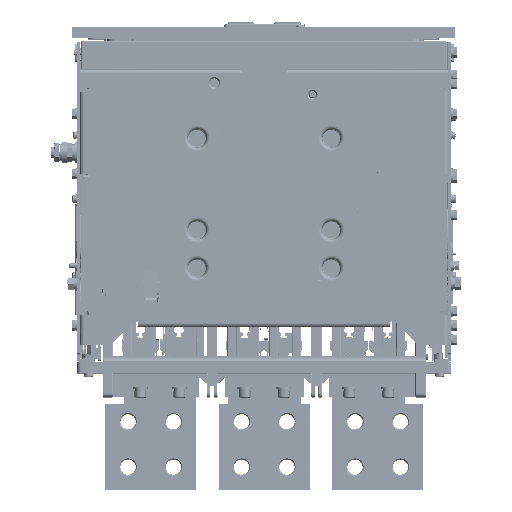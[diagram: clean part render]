
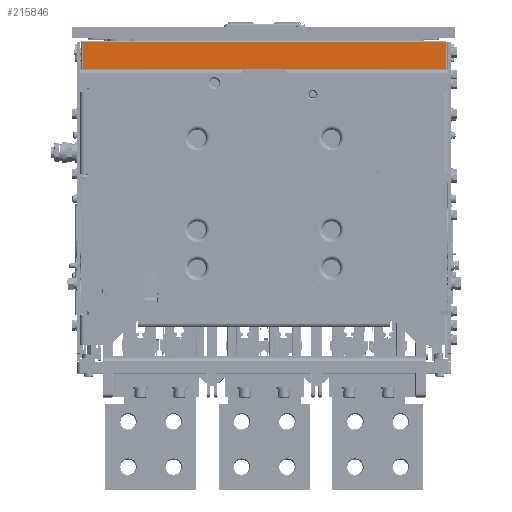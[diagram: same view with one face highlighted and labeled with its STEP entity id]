
A CAD part, top view. The second image highlights one B-rep face of the part: STEP entity #215846.
In plain terms, the highlighted planar face has unit normal (0, 0, 1) as drawn and (0, -1, 0) by its records, which use the part's own axes.
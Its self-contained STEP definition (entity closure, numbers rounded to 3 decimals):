
#1547 = VERTEX_POINT ( 'NONE', #239881 ) ;
#21737 = EDGE_LOOP ( 'NONE', ( #365486, #358300, #59287, #261744 ) ) ;
#31199 = EDGE_CURVE ( 'NONE', #1547, #227550, #259675, .T. ) ;
#59287 = ORIENTED_EDGE ( 'NONE', *, *, #106549, .F. ) ;
#61378 = PLANE ( 'NONE',  #119007 ) ;
#89750 = DIRECTION ( 'NONE',  ( 0., 0., 1. ) ) ;
#106549 = EDGE_CURVE ( 'NONE', #250939, #142606, #290831, .T. ) ;
#111981 = CARTESIAN_POINT ( 'NONE',  ( 375.001, -243.998, 493.5 ) ) ;
#116140 = DIRECTION ( 'NONE',  ( 0., 0., 1. ) ) ;
#119007 = AXIS2_PLACEMENT_3D ( 'NONE', #181493, #329251, #179571 ) ;
#121254 = LINE ( 'NONE', #357621, #161066 ) ;
#142606 = VERTEX_POINT ( 'NONE', #382867 ) ;
#161066 = VECTOR ( 'NONE', #89750, 1000. ) ;
#168748 = DIRECTION ( 'NONE',  ( -1., 0., 0. ) ) ;
#179571 = DIRECTION ( 'NONE',  ( 0., 0., -1. ) ) ;
#181493 = CARTESIAN_POINT ( 'NONE',  ( 175.001, -244.008, 478.25 ) ) ;
#205398 = EDGE_CURVE ( 'NONE', #250939, #1547, #293396, .T. ) ;
#209076 = FACE_OUTER_BOUND ( 'NONE', #21737, .T. ) ;
#215846 = ADVANCED_FACE ( 'NONE', ( #209076 ), #61378, .F. ) ;
#227026 = EDGE_CURVE ( 'NONE', #142606, #227550, #121254, .T. ) ;
#227550 = VERTEX_POINT ( 'NONE', #338301 ) ;
#228984 = CARTESIAN_POINT ( 'NONE',  ( 375.001, -243.998, 463. ) ) ;
#232078 = DIRECTION ( 'NONE',  ( -1., 0., 0. ) ) ;
#239881 = CARTESIAN_POINT ( 'NONE',  ( 375.001, -243.998, 493.5 ) ) ;
#250939 = VERTEX_POINT ( 'NONE', #228984 ) ;
#259675 = LINE ( 'NONE', #111981, #299340 ) ;
#261744 = ORIENTED_EDGE ( 'NONE', *, *, #205398, .T. ) ;
#263824 = CARTESIAN_POINT ( 'NONE',  ( 375.001, -243.998, 463. ) ) ;
#268085 = VECTOR ( 'NONE', #116140, 1000. ) ;
#288904 = CARTESIAN_POINT ( 'NONE',  ( 375.001, -243.998, 463. ) ) ;
#290831 = LINE ( 'NONE', #288904, #386026 ) ;
#293396 = LINE ( 'NONE', #263824, #268085 ) ;
#299340 = VECTOR ( 'NONE', #232078, 1000. ) ;
#329251 = DIRECTION ( 'NONE',  ( 0., 1., 0. ) ) ;
#338301 = CARTESIAN_POINT ( 'NONE',  ( -24.999, -244.018, 493.5 ) ) ;
#357621 = CARTESIAN_POINT ( 'NONE',  ( -24.999, -244.018, 463. ) ) ;
#358300 = ORIENTED_EDGE ( 'NONE', *, *, #227026, .F. ) ;
#365486 = ORIENTED_EDGE ( 'NONE', *, *, #31199, .T. ) ;
#382867 = CARTESIAN_POINT ( 'NONE',  ( -24.999, -244.018, 463. ) ) ;
#386026 = VECTOR ( 'NONE', #168748, 1000. ) ;
